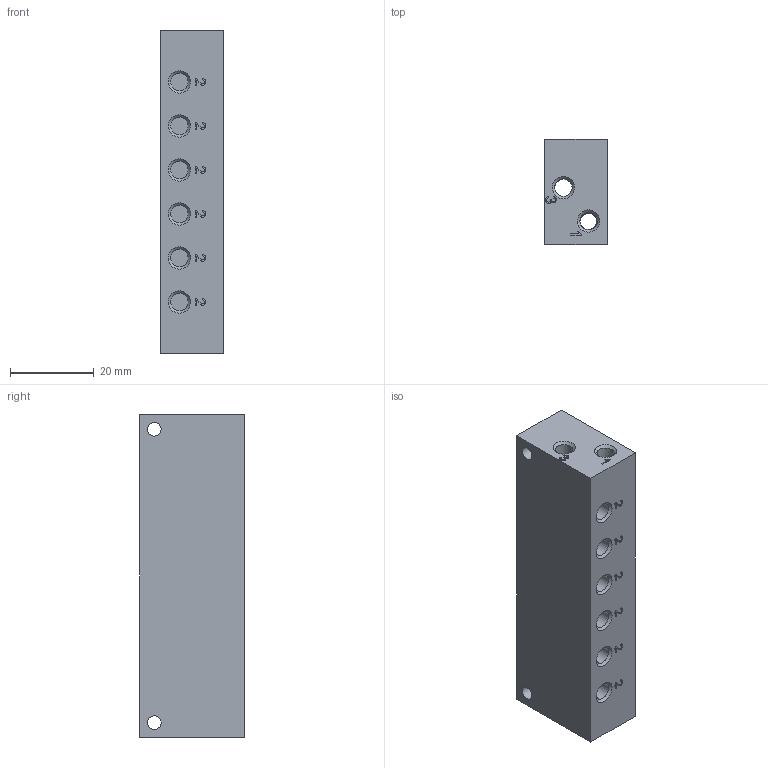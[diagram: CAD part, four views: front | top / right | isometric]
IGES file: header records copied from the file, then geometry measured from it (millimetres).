
Global section: file name: P395_06; native system: Autodesk Inventor 2014; preprocessor: unknown; date: 20160908.083133; units: millimetre
Bounding box: 15 x 25 x 77 mm (x, y, z)
Volume: 25774.5 mm3; surface area: 9820.5 mm2
Topology: 1 solids, 1 shells, 208 faces, 596 edges, 408 vertices
Faces by surface type: bspline 208
